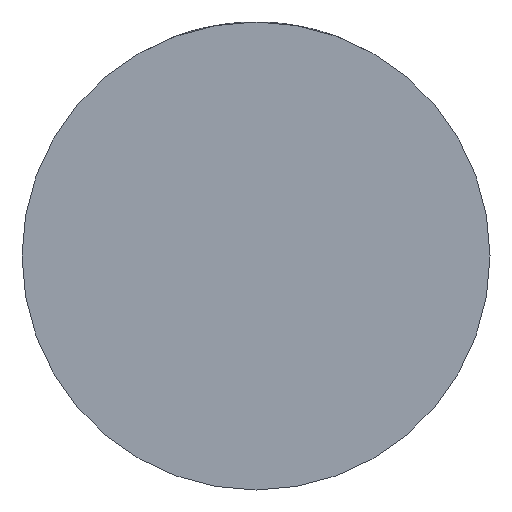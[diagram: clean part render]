
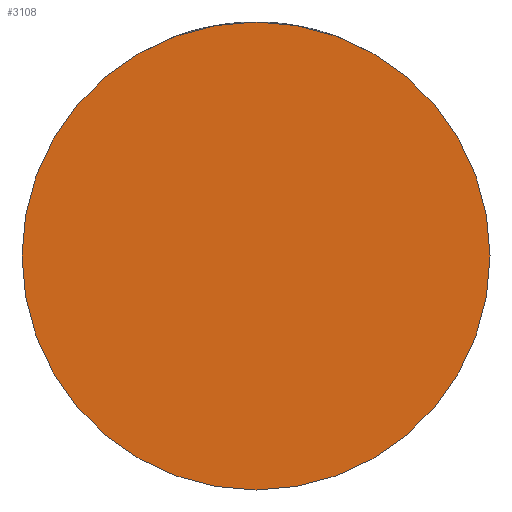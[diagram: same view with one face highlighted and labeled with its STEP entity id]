
A CAD part, front view. The second image highlights one B-rep face of the part: STEP entity #3108.
In plain terms, the highlighted planar face has unit normal (0, -1, 0).
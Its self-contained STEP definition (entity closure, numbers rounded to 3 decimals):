
#176 = CARTESIAN_POINT ( 'NONE',  ( 0., -20., 0. ) ) ;
#301 = DIRECTION ( 'NONE',  ( 1., 0., 0. ) ) ;
#1049 = ORIENTED_EDGE ( 'NONE', *, *, #4316, .F. ) ;
#1074 = DIRECTION ( 'NONE',  ( -1., 0., 0. ) ) ;
#1465 = CARTESIAN_POINT ( 'NONE',  ( 27.5, -20., 0. ) ) ;
#1995 = PLANE ( 'NONE',  #3435 ) ;
#2145 = DIRECTION ( 'NONE',  ( -1., 0., 0. ) ) ;
#2225 = ORIENTED_EDGE ( 'NONE', *, *, #3542, .F. ) ;
#2501 = CARTESIAN_POINT ( 'NONE',  ( 0., -20., 0. ) ) ;
#2533 = CARTESIAN_POINT ( 'NONE',  ( -27.5, -20., 0. ) ) ;
#2831 = CIRCLE ( 'NONE', #3523, 27.5 ) ;
#3002 = VERTEX_POINT ( 'NONE', #2533 ) ;
#3108 = ADVANCED_FACE ( 'NONE', ( #5248 ), #1995, .T. ) ;
#3435 = AXIS2_PLACEMENT_3D ( 'NONE', #3672, #5356, #301 ) ;
#3523 = AXIS2_PLACEMENT_3D ( 'NONE', #176, #4396, #1074 ) ;
#3534 = CIRCLE ( 'NONE', #5004, 27.5 ) ;
#3542 = EDGE_CURVE ( 'NONE', #4461, #3002, #2831, .T. ) ;
#3672 = CARTESIAN_POINT ( 'NONE',  ( 0., -20., 0. ) ) ;
#3971 = EDGE_LOOP ( 'NONE', ( #1049, #2225 ) ) ;
#4316 = EDGE_CURVE ( 'NONE', #3002, #4461, #3534, .T. ) ;
#4396 = DIRECTION ( 'NONE',  ( 0., 1., 0. ) ) ;
#4461 = VERTEX_POINT ( 'NONE', #1465 ) ;
#4565 = DIRECTION ( 'NONE',  ( 0., 1., 0. ) ) ;
#5004 = AXIS2_PLACEMENT_3D ( 'NONE', #2501, #4565, #2145 ) ;
#5248 = FACE_OUTER_BOUND ( 'NONE', #3971, .T. ) ;
#5356 = DIRECTION ( 'NONE',  ( 0., -1., 0. ) ) ;
